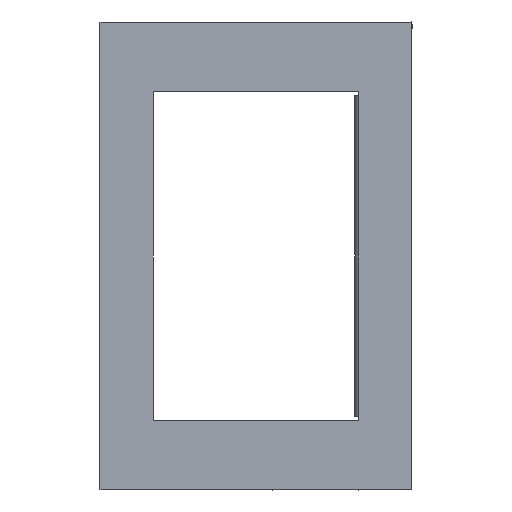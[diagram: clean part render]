
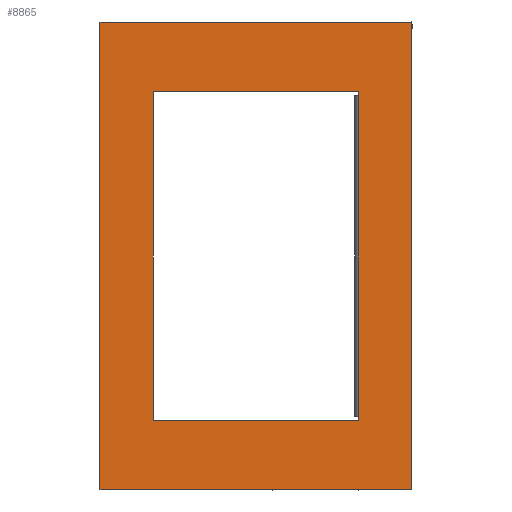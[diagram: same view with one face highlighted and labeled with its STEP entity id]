
A CAD part, left-side view. The second image highlights one B-rep face of the part: STEP entity #8865.
In plain terms, the highlighted planar face has unit normal (-1, 0, 0).
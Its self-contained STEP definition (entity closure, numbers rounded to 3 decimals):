
#131 = DIRECTION ( 'NONE',  ( 0., 1., 0. ) ) ;
#320 = ORIENTED_EDGE ( 'NONE', *, *, #24205, .F. ) ;
#689 = PLANE ( 'NONE',  #25647 ) ;
#752 = FACE_OUTER_BOUND ( 'NONE', #14055, .T. ) ;
#1927 = ORIENTED_EDGE ( 'NONE', *, *, #15790, .T. ) ;
#2205 = DIRECTION ( 'NONE',  ( 0., -1., 0. ) ) ;
#4577 = EDGE_LOOP ( 'NONE', ( #7144, #18138, #5365, #1927 ) ) ;
#4707 = CARTESIAN_POINT ( 'NONE',  ( 935., -12.5, 0. ) ) ;
#4971 = FACE_BOUND ( 'NONE', #4577, .T. ) ;
#5365 = ORIENTED_EDGE ( 'NONE', *, *, #27504, .T. ) ;
#6104 = VERTEX_POINT ( 'NONE', #25938 ) ;
#6158 = LINE ( 'NONE', #33546, #8490 ) ;
#7144 = ORIENTED_EDGE ( 'NONE', *, *, #33380, .T. ) ;
#7424 = DIRECTION ( 'NONE',  ( 0., 1., 0. ) ) ;
#8490 = VECTOR ( 'NONE', #30594, 1000. ) ;
#8865 = ADVANCED_FACE ( 'NONE', ( #752, #4971 ), #689, .T. ) ;
#10075 = VECTOR ( 'NONE', #2205, 1000. ) ;
#11170 = VECTOR ( 'NONE', #28700, 1000. ) ;
#11572 = ORIENTED_EDGE ( 'NONE', *, *, #22415, .F. ) ;
#11947 = CARTESIAN_POINT ( 'NONE',  ( 935., -120., -20. ) ) ;
#13190 = CARTESIAN_POINT ( 'NONE',  ( 935., 12.5, -20. ) ) ;
#13388 = CARTESIAN_POINT ( 'NONE',  ( 935., -137.716, -28.5 ) ) ;
#13659 = LINE ( 'NONE', #11947, #23850 ) ;
#14055 = EDGE_LOOP ( 'NONE', ( #25782, #11572, #320, #14653 ) ) ;
#14375 = DIRECTION ( 'NONE',  ( 0., 0., 1. ) ) ;
#14510 = LINE ( 'NONE', #17218, #16834 ) ;
#14653 = ORIENTED_EDGE ( 'NONE', *, *, #22292, .F. ) ;
#15453 = VERTEX_POINT ( 'NONE', #20672 ) ;
#15626 = DIRECTION ( 'NONE',  ( 0., -1., 0. ) ) ;
#15790 = EDGE_CURVE ( 'NONE', #24694, #26802, #6158, .T. ) ;
#16834 = VECTOR ( 'NONE', #14375, 1000. ) ;
#16860 = DIRECTION ( 'NONE',  ( 0., 0., -1. ) ) ;
#17218 = CARTESIAN_POINT ( 'NONE',  ( 935., 12.5, 0. ) ) ;
#18093 = EDGE_CURVE ( 'NONE', #15453, #32728, #22305, .T. ) ;
#18138 = ORIENTED_EDGE ( 'NONE', *, *, #34935, .T. ) ;
#18841 = LINE ( 'NONE', #37429, #28948 ) ;
#19254 = CARTESIAN_POINT ( 'NONE',  ( 935., -19., -28.5 ) ) ;
#20672 = CARTESIAN_POINT ( 'NONE',  ( 935., -19., 28.5 ) ) ;
#20720 = LINE ( 'NONE', #13388, #29474 ) ;
#20951 = VERTEX_POINT ( 'NONE', #13190 ) ;
#21689 = CARTESIAN_POINT ( 'NONE',  ( 935., -19., 0. ) ) ;
#22292 = EDGE_CURVE ( 'NONE', #32728, #36723, #20720, .T. ) ;
#22305 = LINE ( 'NONE', #21689, #11170 ) ;
#22415 = EDGE_CURVE ( 'NONE', #6104, #15453, #25792, .T. ) ;
#22566 = VECTOR ( 'NONE', #16860, 1000. ) ;
#22748 = CARTESIAN_POINT ( 'NONE',  ( 935., -1675.26, 28.5 ) ) ;
#23850 = VECTOR ( 'NONE', #131, 1000. ) ;
#24205 = EDGE_CURVE ( 'NONE', #36723, #6104, #18841, .T. ) ;
#24301 = DIRECTION ( 'NONE',  ( -1., 0., 0. ) ) ;
#24694 = VERTEX_POINT ( 'NONE', #25994 ) ;
#24703 = VERTEX_POINT ( 'NONE', #35407 ) ;
#25647 = AXIS2_PLACEMENT_3D ( 'NONE', #32779, #24301, #15626 ) ;
#25782 = ORIENTED_EDGE ( 'NONE', *, *, #18093, .F. ) ;
#25792 = LINE ( 'NONE', #22748, #10075 ) ;
#25938 = CARTESIAN_POINT ( 'NONE',  ( 935., 19., 28.5 ) ) ;
#25994 = CARTESIAN_POINT ( 'NONE',  ( 935., 12.5, 20. ) ) ;
#26802 = VERTEX_POINT ( 'NONE', #35754 ) ;
#27504 = EDGE_CURVE ( 'NONE', #20951, #24694, #14510, .T. ) ;
#28700 = DIRECTION ( 'NONE',  ( 0., 0., -1. ) ) ;
#28948 = VECTOR ( 'NONE', #31613, 1000. ) ;
#29474 = VECTOR ( 'NONE', #7424, 1000. ) ;
#30133 = CARTESIAN_POINT ( 'NONE',  ( 935., 19., -28.5 ) ) ;
#30372 = LINE ( 'NONE', #4707, #22566 ) ;
#30594 = DIRECTION ( 'NONE',  ( 0., -1., 0. ) ) ;
#31613 = DIRECTION ( 'NONE',  ( 0., 0., 1. ) ) ;
#32728 = VERTEX_POINT ( 'NONE', #19254 ) ;
#32779 = CARTESIAN_POINT ( 'NONE',  ( 935., 0., 0. ) ) ;
#33380 = EDGE_CURVE ( 'NONE', #26802, #24703, #30372, .T. ) ;
#33546 = CARTESIAN_POINT ( 'NONE',  ( 935., -120., 20. ) ) ;
#34935 = EDGE_CURVE ( 'NONE', #24703, #20951, #13659, .T. ) ;
#35407 = CARTESIAN_POINT ( 'NONE',  ( 935., -12.5, -20. ) ) ;
#35754 = CARTESIAN_POINT ( 'NONE',  ( 935., -12.5, 20. ) ) ;
#36723 = VERTEX_POINT ( 'NONE', #30133 ) ;
#37429 = CARTESIAN_POINT ( 'NONE',  ( 935., 19., 0. ) ) ;
